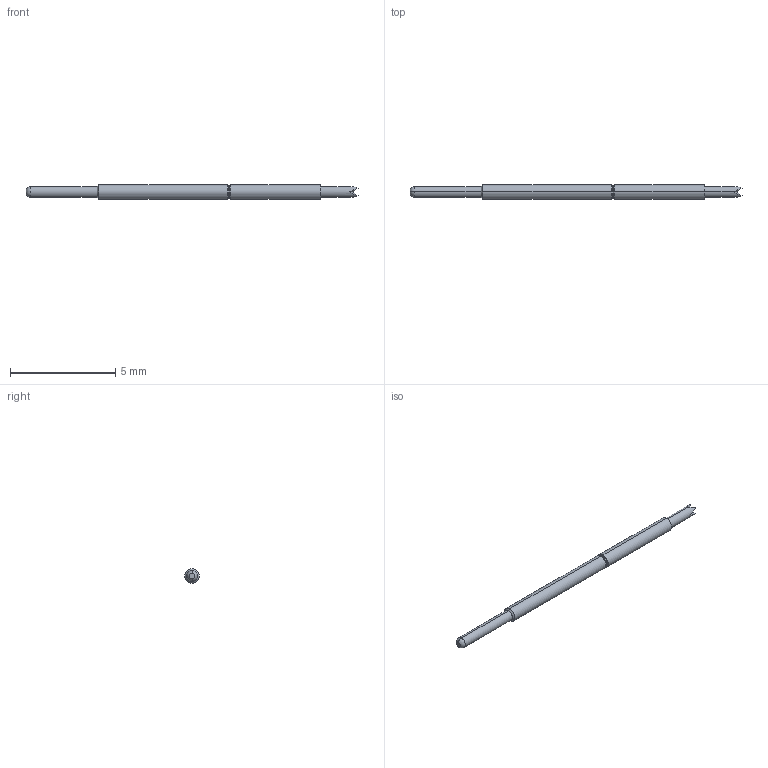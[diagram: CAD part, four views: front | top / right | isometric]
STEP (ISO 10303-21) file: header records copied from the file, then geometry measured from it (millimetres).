
FILE_DESCRIPTION (( 'STEP AP203' ), '1' );
FILE_NAME ('100187-019-958 (REST).STEP', '2022-12-28T04:23:16', ( '' ), ( '' ), 'SwSTEP 2.0', 'SolidWorks 2022', '' );
FILE_SCHEMA (( 'CONFIG_CONTROL_DESIGN' ));
Length unit declared in the file: inch
Products named in the file (1): 100187-019-958 (REST)
Bounding box: 15.75 x 0.69 x 0.69 mm (x, y, z)
Volume: 4.9 mm3; surface area: 31.7 mm2
Topology: 1 solids, 1 shells, 34 faces, 70 edges, 39 vertices
Faces by surface type: plane 14, torus 10, cylinder 8, cone 2
Entity records: 965 total; most frequent: CARTESIAN_POINT 168, DIRECTION 168, ORIENTED_EDGE 140, AXIS2_PLACEMENT_3D 71, EDGE_CURVE 70, VERTEX_POINT 39, CIRCLE 36, EDGE_LOOP 35
